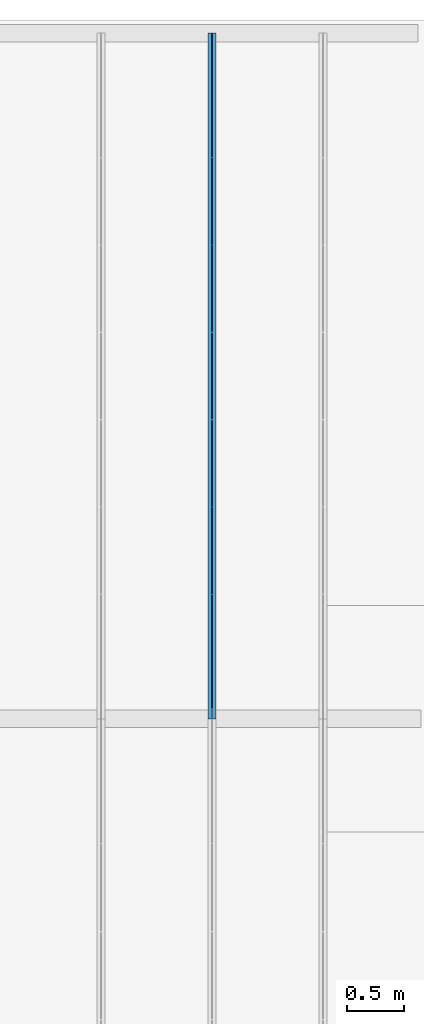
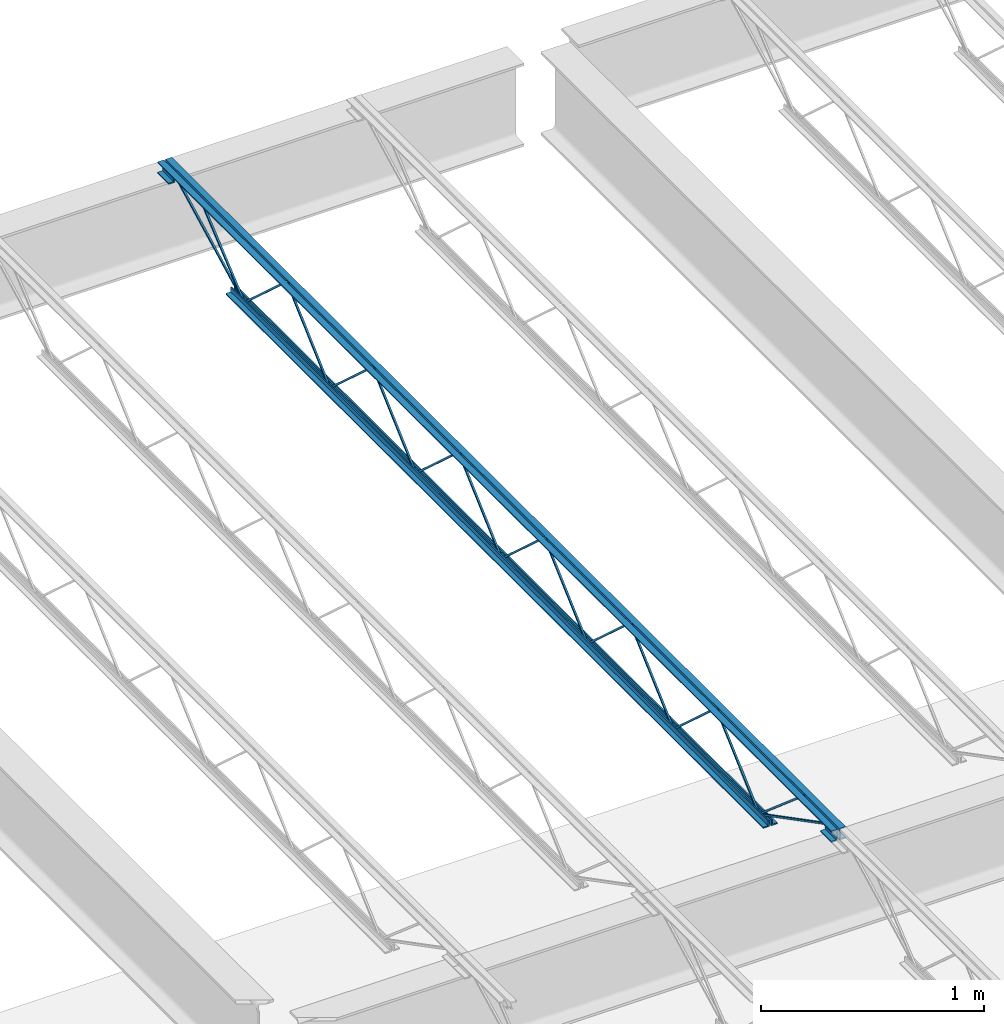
# One storey, part 38 of 75: 1 beam.
"""IFC2X3 building model written with IfcOpenShell, lengths in metres."""

import ifcopenshell
import ifcopenshell.guid

model = None  # the IFC model being written
_history = None  # IfcOwnerHistory: only IFC2X3 demands one
_inside = {}  # id of a spatial element -> (the spatial element, [elements in it])
_under = {}  # id of a project, library or spatial element -> (it, [spatial elements below it])
_declared = {}  # id of a project -> (the project, [libraries it declares])
_typed = {}  # id of a type object -> (the type object, [elements of that type])
_made_of = {}  # id of a material, layer set ... -> (it, [elements and type objects made of it])


def new_model(schema):
    """Start an empty IFC model of exactly this schema.

    Asked for "IFC4X3", IfcOpenShell would pick the latest addendum, in which some entities
    have other attributes; the version numbers below select the first issue.
    IFC2X3 requires an IfcOwnerHistory on every rooted entity: one is made here for all.
    """
    global model, _history
    if schema == "IFC4X3":
        model = ifcopenshell.file(schema_version=(4, 3, 0, 0))
    else:
        model = ifcopenshell.file(schema=schema)
    _inside.clear()
    _under.clear()
    _declared.clear()
    _typed.clear()
    _made_of.clear()
    _history = None
    if model.schema == "IFC2X3":
        org = make("IfcOrganization", Name="unknown")
        user = make(
            "IfcPersonAndOrganization",
            ThePerson=make("IfcPerson", FamilyName="unknown"),
            TheOrganization=org,
        )
        app = make(
            "IfcApplication",
            ApplicationDeveloper=org,
            Version="unknown",
            ApplicationFullName="unknown",
            ApplicationIdentifier="unknown",
        )
        _history = make(
            "IfcOwnerHistory",
            OwningUser=user,
            OwningApplication=app,
            ChangeAction="ADDED",
            CreationDate=0,
        )
    return model


def make(cls, **values):
    """One entity of the class cls with the attributes given. An attribute that is None is left unset."""
    return model.create_entity(
        cls, **{name: value for name, value in values.items() if value is not None}
    )


def entity(cls, *values):
    """Any entity or typed value of the class cls, its attributes in the order of the schema. None: left unset."""
    e = model.create_entity(cls)
    for i, value in enumerate(values):
        if value is not None:
            e[i] = value
    return e


def rooted(cls, **values):
    """An entity with a GlobalId (a new one), such as an element, a storey or a relation."""
    return make(cls, GlobalId=ifcopenshell.guid.new(), OwnerHistory=_history, **values)


def si_unit(unit_type, name, prefix=None):
    """IfcSIUnit, for example si_unit("LENGTHUNIT", "METRE", prefix="MILLI")."""
    return make("IfcSIUnit", UnitType=unit_type, Prefix=prefix, Name=name)


def converted_unit(unit_type, name, factor, base, dimensions=None, offset=None):
    """IfcConversionBasedUnit, such as the inch: factor (a typed value) times the base unit."""
    return make(
        "IfcConversionBasedUnit"
        if offset is None
        else "IfcConversionBasedUnitWithOffset",
        ConversionOffset=offset,
        Dimensions=None
        if dimensions is None
        else entity("IfcDimensionalExponents", *dimensions),
        UnitType=unit_type,
        Name=name,
        ConversionFactor=make(
            "IfcMeasureWithUnit", ValueComponent=factor, UnitComponent=base
        ),
    )


def assignment(units):
    """IfcUnitAssignment: the units of a project."""
    return None if units is None else make("IfcUnitAssignment", Units=units)


def point(xyz):
    """IfcCartesianPoint."""
    return None if xyz is None else make("IfcCartesianPoint", Coordinates=xyz)


def direction(xyz):
    """IfcDirection."""
    return None if xyz is None else make("IfcDirection", DirectionRatios=xyz)


def frame(location, z_axis=None, x_axis=None):
    """IfcAxis2Placement3D, a coordinate frame: its origin and axes. An axis left out is left unset."""
    return make(
        "IfcAxis2Placement3D",
        Location=point(location),
        Axis=direction(z_axis),
        RefDirection=direction(x_axis),
    )


def origin():
    """The frame at (0, 0, 0) with its axes left unset."""
    return frame((0.0, 0.0, 0.0))


def place(relative_to, where):
    """IfcLocalPlacement: puts the frame where relative to a parent placement (None: the world)."""
    return make(
        "IfcLocalPlacement", PlacementRelTo=relative_to, RelativePlacement=where
    )


def context(
    kind, dimensions, precision=None, world=None, true_north=None, identifier=None
):
    """IfcGeometricRepresentationContext, for example the 3D "Model" context."""
    return make(
        "IfcGeometricRepresentationContext",
        ContextIdentifier=identifier,
        ContextType=kind,
        CoordinateSpaceDimension=dimensions,
        Precision=precision,
        WorldCoordinateSystem=world,
        TrueNorth=true_north,
    )


def project(units=None, contexts=None):
    """IfcProject with its units and contexts."""
    return rooted(
        "IfcProject",
        Name="project",
        RepresentationContexts=contexts,
        UnitsInContext=assignment(units),
    )


def spatial(cls, under=None, at=None, **own):
    """A site, building, storey or space (cls), placed at a placement, below another one or the project."""
    s = rooted(cls, ObjectPlacement=at, **own)
    if under is not None:
        _under.setdefault(under.id(), (under, []))[1].append(s)
    return s


def faces_of(points, faces, orient=None, outer=None):
    """IfcFace entities. A face is a list of loops; a loop is a list of indices into points, from 0.

    orient and outer hold one flag for each loop. By default every Orientation is true, the
    first loop of a face is its IfcFaceOuterBound and the others are IfcFaceBound.
    """
    made = []
    for i, loops in enumerate(faces):
        bounds = []
        for j, loop in enumerate(loops):
            is_outer = j == 0 if outer is None else outer[i][j]
            bounds.append(
                make(
                    "IfcFaceOuterBound" if is_outer else "IfcFaceBound",
                    Bound=make("IfcPolyLoop", Polygon=[points[k] for k in loop]),
                    Orientation=True if orient is None else orient[i][j],
                )
            )
        made.append(make("IfcFace", Bounds=bounds))
    return made


def face_set(faces, orient=None, outer=None):
    """The faces of one IfcConnectedFaceSet. surface_model builds it on its shared points."""
    return ("IfcConnectedFaceSet", faces, orient, outer)


def surface_model(cls, points, shells):
    """IfcFaceBasedSurfaceModel or IfcShellBasedSurfaceModel (cls): surfaces that need not close."""
    shared = [point(p) for p in points]
    made = [make(c, CfsFaces=faces_of(shared, fs, o, b)) for c, fs, o, b in shells]
    if cls == "IfcFaceBasedSurfaceModel":
        return make(cls, FbsmFaces=made)
    return make(cls, SbsmBoundary=made)


def shape(context_of_items, identifier, shape_type, items):
    """IfcShapeRepresentation: the items that make up one representation, for example the "Body"."""
    return make(
        "IfcShapeRepresentation",
        ContextOfItems=context_of_items,
        RepresentationIdentifier=identifier,
        RepresentationType=shape_type,
        Items=items,
    )


def made_of(thing, what):
    """Note that an element or type object is made of a material, layer set ...; save() writes the relation."""
    if what is not None:
        _made_of.setdefault(what.id(), (what, []))[1].append(thing)
    return thing


def element(
    cls,
    number,
    at=None,
    inside=None,
    cuts=None,
    type_object=None,
    material=None,
    context=None,
    identifier="Body",
    shape_type=None,
    held_by="IfcProductDefinitionShape",
    body=None,
    shapes=None,
    **own,
):
    """One element of the class cls, such as IfcWall. Its Tag is "e" and its number.

    at: its placement. inside: the storey or other place that contains it. cuts: it is an
    opening in that element (IfcRelVoidsElement). A single representation is given by context,
    identifier, shape_type and body (its items); several are given by shapes. held_by: the class
    of the entity that holds the representations. save() writes the other relations.
    """
    e = rooted(cls, Tag="e%d" % number, ObjectPlacement=at, **own)
    if body is not None:
        shapes = [shape(context, identifier, shape_type, body)]
    if shapes is not None:
        e.Representation = make(held_by, Representations=shapes)
    if inside is not None:
        _inside.setdefault(inside.id(), (inside, []))[1].append(e)
    if cuts is not None:
        rooted(
            "IfcRelVoidsElement", RelatingBuildingElement=cuts, RelatedOpeningElement=e
        )
    if type_object is not None:
        _typed.setdefault(type_object.id(), (type_object, []))[1].append(e)
    return made_of(e, material)


def aggregate(whole, parts):
    """IfcRelAggregates: a whole, such as a stair, and the parts it consists of."""
    return rooted("IfcRelAggregates", RelatingObject=whole, RelatedObjects=parts)


def save(model, path):
    """Write the relations noted so far, then the file.

    IfcRelAggregates (storeys below a building ...), IfcRelContainedInSpatialStructure (elements
    in a storey), IfcRelDefinesByType, IfcRelAssociatesMaterial and IfcRelDeclares: one each for
    every whole, place, type object, material and project.
    """
    for whole, parts in _under.values():
        aggregate(whole, parts)
    for where, things in _inside.values():
        rooted(
            "IfcRelContainedInSpatialStructure",
            RelatedElements=things,
            RelatingStructure=where,
        )
    for kind, things in _typed.values():
        rooted("IfcRelDefinesByType", RelatedObjects=things, RelatingType=kind)
    for what, things in _made_of.values():
        rooted("IfcRelAssociatesMaterial", RelatedObjects=things, RelatingMaterial=what)
    for by, libraries in _declared.values():
        rooted("IfcRelDeclares", RelatingContext=by, RelatedDefinitions=libraries)
    model.write(path)


model = new_model("IFC2X3")

# Units and contexts
model_context = context("Model", 3, precision=1e-09, world=origin())
plan_context = context("Plan", 3, precision=1e-09, world=origin())
ifc_project = project(units=[si_unit("LENGTHUNIT", "METRE"), si_unit("AREAUNIT", "SQUARE_METRE"), si_unit("VOLUMEUNIT", "CUBIC_METRE"), converted_unit("PLANEANGLEUNIT", "DEGREE", entity("IfcRatioMeasure", 0.01745329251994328), si_unit("PLANEANGLEUNIT", "RADIAN"), dimensions=[0, 0, 0, 0, 0, 0, 0]), si_unit("TIMEUNIT", "SECOND")], contexts=[model_context, plan_context])

# Site, building, storey
site_placement = place(None, origin())
site = spatial("IfcSite", under=ifc_project, at=site_placement, Name="Default", CompositionType="ELEMENT")
building_placement = place(site_placement, origin())
building = spatial("IfcBuilding", under=site, at=building_placement, CompositionType="ELEMENT")
storey_placement = place(building_placement, origin())
storey = spatial("IfcBuildingStorey", under=building, at=storey_placement, Name="First Floor", CompositionType="ELEMENT", Elevation=-3.531500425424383e-13)

# Beam
beam_placement = place(storey_placement, frame((-48.99674999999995, 50.09000000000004, 4.112000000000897), z_axis=(0.0, 0.0, 1.0), x_axis=(-1.0, 0.0, 0.0)))
element("IfcBeam", 1, at=beam_placement, inside=storey, Name="M_K-Series Bar Joist-Rod Web:14K1:14K1", ObjectType="M_K-Series Bar Joist-Rod Web:14K1", context=model_context, shape_type="SurfaceModel", body=[
    surface_model("IfcFaceBasedSurfaceModel", [(-0.03200000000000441, -2.254000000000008, 0.01110000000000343), (-0.0415000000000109, -2.254000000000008, 0.01110000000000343), (-0.0415000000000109, -2.254000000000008, 0.001600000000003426), (-0.03200000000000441, -2.254000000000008, 0.001600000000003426), (-0.04150000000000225, -2.252655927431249, 0.01110000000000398), (-0.03200000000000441, -2.252655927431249, 0.01110000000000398), (-0.04150000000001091, -2.248994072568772, 0.001600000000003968), (-0.04150000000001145, -1.869844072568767, 0.3449000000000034), (-0.04150000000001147, -1.86715592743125, 0.3449000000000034), (-0.04150000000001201, -1.48800592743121, 0.001600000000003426), (-0.04150000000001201, -1.483000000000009, 0.001600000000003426), (-0.04150000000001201, -1.483000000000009, 0.01110000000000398), (-0.04150000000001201, -1.484344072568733, 0.01110000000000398), (-0.04150000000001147, -1.863494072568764, 0.3544000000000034), (-0.04150000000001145, -1.873505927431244, 0.3544000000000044), (-0.03200000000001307, -2.248994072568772, 0.001600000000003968), (-0.03200000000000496, -1.869844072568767, 0.3449000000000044), (-0.03200000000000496, -1.86715592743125, 0.3449000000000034), (-0.0320000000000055, -1.48800592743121, 0.001600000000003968), (-0.03200000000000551, -1.483000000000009, 0.001600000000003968), (-0.03200000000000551, -1.483000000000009, 0.01110000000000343), (-0.0320000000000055, -1.484344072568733, 0.01110000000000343), (-0.03200000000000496, -1.863494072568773, 0.3544000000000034), (-0.03200000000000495, -1.873505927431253, 0.3544000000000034), (-0.0320000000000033, -3.025000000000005, 0.01110000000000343), (-0.04150000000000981, -3.025000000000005, 0.01110000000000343), (-0.04150000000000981, -3.025000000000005, 0.001600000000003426), (-0.0320000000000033, -3.025000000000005, 0.001600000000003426), (-0.04150000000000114, -3.023655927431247, 0.01110000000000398), (-0.0320000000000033, -3.023655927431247, 0.01110000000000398), (-0.04150000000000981, -3.01999407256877, 0.001600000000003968), (-0.04150000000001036, -2.640844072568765, 0.3449000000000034), (-0.04150000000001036, -2.638155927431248, 0.3449000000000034), (-0.0415000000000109, -2.259005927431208, 0.001600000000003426), (-0.0415000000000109, -2.254000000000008, 0.01110000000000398), (-0.0415000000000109, -2.255344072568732, 0.01110000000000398), (-0.04150000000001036, -2.634494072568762, 0.3544000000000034), (-0.04150000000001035, -2.644505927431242, 0.3544000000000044), (-0.03200000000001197, -3.01999407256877, 0.001600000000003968), (-0.03200000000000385, -2.640844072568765, 0.3449000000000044), (-0.03200000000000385, -2.638155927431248, 0.3449000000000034), (-0.03200000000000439, -2.259005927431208, 0.001600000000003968), (-0.03200000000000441, -2.254000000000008, 0.001600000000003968), (-0.0320000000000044, -2.255344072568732, 0.01110000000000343), (-0.03200000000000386, -2.634494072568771, 0.3544000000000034), (-0.03200000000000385, -2.644505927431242, 0.3544000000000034), (-0.03200000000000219, -3.796000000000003, 0.01110000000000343), (-0.0415000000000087, -3.796000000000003, 0.01110000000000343), (-0.0415000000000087, -3.796000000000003, 0.001600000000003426), (-0.03200000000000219, -3.796000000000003, 0.001600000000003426), (-0.04150000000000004, -3.794655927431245, 0.01110000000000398), (-0.03200000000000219, -3.794655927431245, 0.01110000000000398), (-0.0415000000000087, -3.790994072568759, 0.001600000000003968), (-0.04150000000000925, -3.411844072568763, 0.3449000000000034), (-0.04150000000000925, -3.409155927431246, 0.3449000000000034), (-0.04150000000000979, -3.030005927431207, 0.001600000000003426), (-0.04150000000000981, -3.025000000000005, 0.01110000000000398), (-0.04150000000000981, -3.026344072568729, 0.01110000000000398), (-0.04150000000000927, -3.40549407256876, 0.3544000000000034), (-0.04150000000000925, -3.41550592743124, 0.3544000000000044), (-0.03200000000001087, -3.790994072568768, 0.001600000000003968), (-0.03200000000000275, -3.411844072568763, 0.3449000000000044), (-0.03200000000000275, -3.409155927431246, 0.3449000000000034), (-0.03200000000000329, -3.030005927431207, 0.001600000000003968), (-0.0320000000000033, -3.025000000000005, 0.001600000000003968), (-0.0320000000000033, -3.026344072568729, 0.01110000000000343), (-0.03200000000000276, -3.40549407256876, 0.3544000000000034), (-0.03200000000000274, -3.41550592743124, 0.3544000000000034), (-0.03200000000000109, -4.567000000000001, 0.01110000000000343), (-0.04150000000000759, -4.567000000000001, 0.01110000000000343), (-0.04150000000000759, -4.567000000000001, 0.001600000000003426), (-0.03200000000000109, -4.567000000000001, 0.001600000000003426), (-0.04149999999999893, -4.565655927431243, 0.01110000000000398), (-0.03200000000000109, -4.565655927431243, 0.01110000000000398), (-0.04150000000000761, -4.561994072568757, 0.001600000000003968), (-0.04150000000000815, -4.182844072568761, 0.3449000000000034), (-0.04150000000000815, -4.180155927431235, 0.3449000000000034), (-0.0415000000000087, -3.801005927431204, 0.001600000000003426), (-0.0415000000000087, -3.795999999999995, 0.001600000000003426), (-0.0415000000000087, -3.796000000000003, 0.01110000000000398), (-0.0415000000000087, -3.797344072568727, 0.01110000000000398), (-0.04150000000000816, -4.176494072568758, 0.3544000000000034), (-0.04150000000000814, -4.186505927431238, 0.3544000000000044), (-0.03200000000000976, -4.561994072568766, 0.001600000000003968), (-0.03200000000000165, -4.182844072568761, 0.3449000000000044), (-0.03200000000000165, -4.180155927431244, 0.3449000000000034), (-0.03200000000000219, -3.801005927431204, 0.001600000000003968), (-0.03200000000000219, -3.796000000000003, 0.001600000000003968), (-0.03200000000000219, -3.795999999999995, 0.01110000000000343), (-0.03200000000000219, -3.797344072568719, 0.01110000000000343), (-0.03200000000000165, -4.176494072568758, 0.3544000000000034), (-0.03200000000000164, -4.186505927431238, 0.3544000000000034), (-0.03200000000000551, -1.483000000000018, 0.01109999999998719), (-0.04150000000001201, -1.483000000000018, 0.01109999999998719), (-0.04150000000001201, -1.483000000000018, 0.001599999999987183), (-0.03200000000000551, -1.483000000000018, 0.001599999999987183), (-0.04150000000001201, -1.48165592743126, 0.01109999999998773), (-0.03200000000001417, -1.48165592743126, 0.01109999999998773), (-0.04150000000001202, -1.477994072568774, 0.001599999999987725), (-0.04150000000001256, -1.098844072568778, 0.3448999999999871), (-0.04150000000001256, -1.096155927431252, 0.3448999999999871), (-0.04150000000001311, -0.717005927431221, 0.001599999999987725), (-0.04150000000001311, -0.7120000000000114, 0.001599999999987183), (-0.04150000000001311, -0.7120000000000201, 0.01109999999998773), (-0.04150000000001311, -0.713344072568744, 0.01109999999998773), (-0.04150000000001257, -1.092494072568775, 0.3543999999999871), (-0.04150000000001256, -1.102505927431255, 0.3543999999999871), (-0.03200000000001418, -1.477994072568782, 0.001599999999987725), (-0.03200000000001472, -1.098844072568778, 0.3448999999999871), (-0.03200000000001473, -1.09615592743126, 0.3448999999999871), (-0.03200000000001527, -0.717005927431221, 0.001599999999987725), (-0.03200000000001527, -0.7120000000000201, 0.001599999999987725), (-0.03200000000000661, -0.7120000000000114, 0.01109999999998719), (-0.03200000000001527, -0.7133440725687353, 0.01109999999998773), (-0.03200000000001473, -1.092494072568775, 0.3543999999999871), (-0.03200000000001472, -1.102505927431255, 0.3543999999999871), (-0.03199999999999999, -5.33799999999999, 0.01110000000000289), (-0.04150000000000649, -5.33799999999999, 0.01110000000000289), (-0.04150000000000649, -5.33799999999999, 0.001600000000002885), (-0.03199999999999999, -5.33799999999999, 0.001600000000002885), (-0.04149999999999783, -5.336655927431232, 0.01110000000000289), (-0.03199999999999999, -5.336655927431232, 0.01110000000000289), (-0.0415000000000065, -5.332994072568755, 0.001600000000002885), (-0.04150000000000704, -4.95384407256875, 0.3449000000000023), (-0.04150000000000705, -4.951155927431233, 0.3449000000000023), (-0.04150000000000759, -4.572005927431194, 0.001600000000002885), (-0.04150000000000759, -4.566999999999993, 0.001600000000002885), (-0.04150000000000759, -4.566999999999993, 0.01110000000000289), (-0.04150000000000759, -4.568344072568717, 0.01110000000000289), (-0.04150000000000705, -4.947494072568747, 0.3544000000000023), (-0.04150000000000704, -4.957505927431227, 0.3544000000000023), (-0.03200000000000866, -5.332994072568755, 0.001600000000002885), (-0.03200000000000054, -4.95384407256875, 0.3449000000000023), (-0.03200000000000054, -4.951155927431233, 0.3449000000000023), (-0.03200000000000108, -4.572005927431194, 0.001600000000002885), (-0.03200000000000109, -4.566999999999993, 0.001600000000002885), (-0.03200000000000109, -4.566999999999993, 0.01110000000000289), (-0.03200000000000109, -4.568344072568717, 0.01110000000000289), (-0.03200000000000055, -4.947494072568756, 0.3544000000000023), (-0.03200000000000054, -4.957505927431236, 0.3544000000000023), (-0.04150000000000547, 0.0, 0.3559999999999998), (-0.07350000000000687, 0.0, 0.3559999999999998), (-0.07350000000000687, 0.0, 0.349499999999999), (-0.048000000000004, 0.0, 0.349499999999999), (-0.048000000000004, 0.0, 0.3239999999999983), (-0.04150000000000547, 0.0, 0.3239999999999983), (-0.03200000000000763, 0.0, 0.3559999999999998), (-0.03200000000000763, 0.0, 0.3239999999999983), (-0.02550000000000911, 0.0, 0.3239999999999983), (-0.02550000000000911, 0.0, 0.349499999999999), (0.0, 0.0, 0.349499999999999), (0.0, 0.0, 0.3559999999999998), (-0.04150000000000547, -6.049999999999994, 0.3559999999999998), (-0.07350000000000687, -6.049999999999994, 0.3559999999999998), (-0.07350000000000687, -6.049999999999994, 0.349499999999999), (-0.048000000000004, -6.049999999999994, 0.349499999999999), (-0.048000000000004, -6.049999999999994, 0.3239999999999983), (-0.04150000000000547, -6.049999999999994, 0.3239999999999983), (-0.03200000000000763, -6.049999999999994, 0.3559999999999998), (-0.03200000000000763, -6.049999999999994, 0.3239999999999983), (-0.02550000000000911, -6.049999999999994, 0.3239999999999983), (-0.02550000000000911, -6.049999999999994, 0.349499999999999), (0.0, -6.049999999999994, 0.349499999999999), (0.0, -6.049999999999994, 0.3559999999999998), (-0.03199999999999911, -5.950000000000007, 0.2924999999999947), (0.0, -5.950000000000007, 0.2924999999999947), (0.0, -5.950000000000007, 0.2989999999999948), (-0.02550000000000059, -5.950000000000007, 0.2989999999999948), (-0.02550000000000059, -5.950000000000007, 0.3239999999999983), (-0.03199999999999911, -5.950000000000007, 0.3239999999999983), (-0.07349999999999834, -5.950000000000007, 0.2924999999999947), (-0.04149999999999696, -5.950000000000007, 0.2924999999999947), (-0.04149999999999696, -5.950000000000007, 0.3239999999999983), (-0.04799999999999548, -5.950000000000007, 0.3239999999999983), (-0.04799999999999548, -5.950000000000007, 0.2989999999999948), (-0.07349999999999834, -5.950000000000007, 0.2989999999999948), (-0.03199999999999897, -6.049999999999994, 0.2924999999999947), (0.0, -6.049999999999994, 0.2924999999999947), (0.0, -6.049999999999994, 0.2989999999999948), (-0.02550000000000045, -6.049999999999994, 0.2989999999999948), (-0.02550000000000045, -6.049999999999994, 0.3239999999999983), (-0.03199999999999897, -6.049999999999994, 0.3239999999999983), (-0.07349999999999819, -6.049999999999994, 0.2924999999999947), (-0.04149999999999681, -6.049999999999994, 0.2924999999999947), (-0.04149999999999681, -6.049999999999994, 0.3239999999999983), (-0.04799999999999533, -6.049999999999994, 0.3239999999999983), (-0.04799999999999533, -6.049999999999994, 0.2989999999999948), (-0.07349999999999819, -6.049999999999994, 0.2989999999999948), (-0.04149999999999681, 0.0, 0.2924999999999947), (-0.04149999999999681, 0.0, 0.3239999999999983), (-0.04799999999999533, 0.0, 0.3239999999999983), (-0.04799999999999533, 0.0, 0.2989999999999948), (-0.07349999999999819, 0.0, 0.2989999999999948), (-0.07349999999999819, 0.0, 0.2924999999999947), (-0.03199999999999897, 0.0, 0.2924999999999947), (0.0, 0.0, 0.2924999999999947), (0.0, 0.0, 0.2989999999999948), (-0.02550000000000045, 0.0, 0.2989999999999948), (-0.02550000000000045, 0.0, 0.3239999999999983), (-0.03199999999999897, 0.0, 0.3239999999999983), (-0.04150000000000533, -0.0999999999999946, 0.2924999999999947), (-0.04150000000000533, -0.0999999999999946, 0.3239999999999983), (-0.04800000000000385, -0.0999999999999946, 0.3239999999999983), (-0.04800000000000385, -0.0999999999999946, 0.2989999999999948), (-0.07350000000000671, -0.0999999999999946, 0.2989999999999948), (-0.07350000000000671, -0.0999999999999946, 0.2924999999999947), (-0.03200000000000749, -0.0999999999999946, 0.2924999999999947), (0.0, -0.0999999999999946, 0.2924999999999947), (0.0, -0.0999999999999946, 0.2989999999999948), (-0.02550000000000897, -0.0999999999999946, 0.2989999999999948), (-0.02550000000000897, -0.0999999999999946, 0.3239999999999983), (-0.03200000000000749, -0.0999999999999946, 0.3239999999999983), (-0.04150000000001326, -0.6119999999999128, 0.0), (-0.04150000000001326, -0.6119999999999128, 0.03199999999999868), (-0.04800000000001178, -0.6119999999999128, 0.03199999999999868), (-0.04800000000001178, -0.6119999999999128, 0.006499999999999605), (-0.07350000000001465, -0.6119999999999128, 0.006499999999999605), (-0.07350000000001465, -0.6119999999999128, 0.0), (-0.03200000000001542, -0.6119999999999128, 0.0), (0.0, -0.6119999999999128, 0.0), (0.0, -0.6119999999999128, 0.006499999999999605), (-0.0255000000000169, -0.6119999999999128, 0.006499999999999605), (-0.0255000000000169, -0.6119999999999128, 0.03199999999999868), (-0.03200000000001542, -0.6119999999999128, 0.03199999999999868), (-0.04150000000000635, -5.437999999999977, 0.0), (-0.04150000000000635, -5.437999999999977, 0.03199999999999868), (-0.04800000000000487, -5.437999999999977, 0.03199999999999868), (-0.04800000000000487, -5.437999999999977, 0.006499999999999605), (-0.07350000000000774, -5.437999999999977, 0.006499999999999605), (-0.07350000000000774, -5.437999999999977, 0.0), (-0.03200000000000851, -5.437999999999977, 0.0), (0.0, -5.437999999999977, 0.0), (0.0, -5.437999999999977, 0.006499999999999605), (-0.02550000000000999, -5.437999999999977, 0.006499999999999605), (-0.02550000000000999, -5.437999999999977, 0.03199999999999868), (-0.03200000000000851, -5.437999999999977, 0.03199999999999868), (-0.03199999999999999, -5.335811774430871, 0.01056594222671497), (-0.0415000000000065, -5.335811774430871, 0.01056594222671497), (-0.04150000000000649, -5.34018822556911, 0.002134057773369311), (-0.03199999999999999, -5.34018822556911, 0.002134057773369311), (-0.03199999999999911, -5.948840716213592, 0.3287499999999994), (-0.03199999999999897, -6.049999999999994, 0.3287499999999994), (-0.03199999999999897, -6.049999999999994, 0.3192499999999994), (-0.03199999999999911, -5.951159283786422, 0.3192499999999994), (-0.04149999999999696, -5.951159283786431, 0.3192499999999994), (-0.04150000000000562, -5.948840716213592, 0.3287499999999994), (-0.04150000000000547, -6.049999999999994, 0.3287499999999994), (-0.04150000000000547, -6.049999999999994, 0.3192499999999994), (-0.03199999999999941, -5.743457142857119, 0.341700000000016), (-0.04150000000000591, -5.743457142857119, 0.341700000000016), (-0.04150000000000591, -5.743457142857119, 0.332200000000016), (-0.03199999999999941, -5.743457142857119, 0.332200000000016), (-0.04149999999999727, -5.729024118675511, 0.341700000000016), (-0.03199999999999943, -5.729024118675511, 0.341700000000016), (-0.04150000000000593, -5.732490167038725, 0.332200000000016), (-0.04150000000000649, -5.341058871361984, 0.002716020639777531), (-0.0415000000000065, -5.334941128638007, 0.009983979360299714), (-0.03200000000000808, -5.732490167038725, 0.332200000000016), (-0.03199999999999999, -5.341058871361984, 0.002716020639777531), (-0.03199999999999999, -5.334941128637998, 0.009983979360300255), (-0.0320000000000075, -0.09781177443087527, 0.3197840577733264), (-0.03200000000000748, -0.1021882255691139, 0.3282159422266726), (-0.04150000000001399, -0.1021882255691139, 0.3282159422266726), (-0.04150000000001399, -0.09781177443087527, 0.3197840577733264), (-0.03200000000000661, -0.7098117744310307, 0.002134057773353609), (-0.03200000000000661, -0.7141882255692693, 0.01056594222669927), (-0.04150000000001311, -0.7141882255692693, 0.01056594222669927), (-0.04150000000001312, -0.7098117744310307, 0.002134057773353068), (-0.03200000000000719, -0.3088922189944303, 0.3460454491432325), (-0.03200000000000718, -0.3150792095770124, 0.3532545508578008), (-0.04150000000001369, -0.3150792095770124, 0.3532545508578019), (-0.04150000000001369, -0.3088922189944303, 0.3460454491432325), (-0.03200000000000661, -0.7089065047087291, 0.002745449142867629), (-0.03200000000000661, -0.715093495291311, 0.009954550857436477), (-0.04150000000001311, -0.715093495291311, 0.009954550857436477), (-0.04150000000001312, -0.7089065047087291, 0.002745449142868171)], [face_set([[[0, 1, 2, 3]], [[1, 4, 5, 0]], [[2, 6, 7, 8, 9, 10, 11, 12, 13, 14, 4, 1]], [[3, 2, 6, 15]], [[0, 3, 15, 16, 17, 18, 19, 20, 21, 22, 23, 5]], [[4, 5, 23, 14]], [[15, 16, 7, 6]], [[14, 13, 22, 23]], [[16, 7, 8, 17]], [[13, 12, 21, 22]], [[17, 8, 9, 18]], [[20, 11, 10, 19]], [[12, 11, 20, 21]], [[18, 9, 10, 19]]]), face_set([[[24, 25, 26, 27]], [[25, 28, 29, 24]], [[26, 30, 31, 32, 33, 2, 34, 35, 36, 37, 28, 25]], [[27, 26, 30, 38]], [[24, 27, 38, 39, 40, 41, 42, 0, 43, 44, 45, 29]], [[28, 29, 45, 37]], [[38, 39, 31, 30]], [[37, 36, 44, 45]], [[39, 31, 32, 40]], [[36, 35, 43, 44]], [[40, 32, 33, 41]], [[0, 34, 2, 42]], [[35, 34, 0, 43]], [[41, 33, 2, 42]]]), face_set([[[46, 47, 48, 49]], [[47, 50, 51, 46]], [[48, 52, 53, 54, 55, 26, 56, 57, 58, 59, 50, 47]], [[49, 48, 52, 60]], [[46, 49, 60, 61, 62, 63, 64, 24, 65, 66, 67, 51]], [[50, 51, 67, 59]], [[60, 61, 53, 52]], [[59, 58, 66, 67]], [[61, 53, 54, 62]], [[58, 57, 65, 66]], [[62, 54, 55, 63]], [[24, 56, 26, 64]], [[57, 56, 24, 65]], [[63, 55, 26, 64]]]), face_set([[[68, 69, 70, 71]], [[69, 72, 73, 68]], [[70, 74, 75, 76, 77, 78, 79, 80, 81, 82, 72, 69]], [[71, 70, 74, 83]], [[68, 71, 83, 84, 85, 86, 87, 88, 89, 90, 91, 73]], [[72, 73, 91, 82]], [[83, 84, 75, 74]], [[82, 81, 90, 91]], [[84, 75, 76, 85]], [[81, 80, 89, 90]], [[85, 76, 77, 86]], [[88, 79, 78, 87]], [[80, 79, 88, 89]], [[86, 77, 78, 87]]]), face_set([[[92, 93, 94, 95]], [[93, 96, 97, 92]], [[94, 98, 99, 100, 101, 102, 103, 104, 105, 106, 96, 93]], [[95, 94, 98, 107]], [[92, 95, 107, 108, 109, 110, 111, 112, 113, 114, 115, 97]], [[96, 97, 115, 106]], [[107, 108, 99, 98]], [[106, 105, 114, 115]], [[108, 99, 100, 109]], [[105, 104, 113, 114]], [[109, 100, 101, 110]], [[112, 103, 102, 111]], [[104, 103, 112, 113]], [[110, 101, 102, 111]]]), face_set([[[116, 117, 118, 119]], [[117, 120, 121, 116]], [[118, 122, 123, 124, 125, 126, 127, 128, 129, 130, 120, 117]], [[119, 118, 122, 131]], [[116, 119, 131, 132, 133, 134, 135, 136, 137, 138, 139, 121]], [[120, 121, 139, 130]], [[131, 132, 123, 122]], [[130, 129, 138, 139]], [[132, 123, 124, 133]], [[129, 128, 137, 138]], [[133, 124, 125, 134]], [[136, 127, 126, 135]], [[128, 127, 136, 137]], [[134, 125, 126, 135]]]), face_set([[[140, 141, 142, 143, 144, 145]], [[146, 147, 148, 149, 150, 151]], [[152, 153, 154, 155, 156, 157]], [[158, 159, 160, 161, 162, 163]], [[145, 140, 152, 157]], [[144, 145, 157, 156]], [[143, 155, 156, 144]], [[142, 143, 155, 154]], [[141, 153, 154, 142]], [[140, 152, 153, 141]], [[151, 163, 158, 146]], [[150, 151, 163, 162]], [[149, 150, 162, 161]], [[148, 149, 161, 160]], [[147, 148, 160, 159]], [[146, 158, 159, 147]]]), face_set([[[164, 165, 166, 167, 168, 169]], [[170, 171, 172, 173, 174, 175]], [[176, 177, 178, 179, 180, 181]], [[182, 183, 184, 185, 186, 187]], [[169, 181, 176, 164]], [[168, 180, 181, 169]], [[167, 168, 180, 179]], [[166, 178, 179, 167]], [[165, 166, 178, 177]], [[164, 165, 177, 176]], [[175, 187, 182, 170]], [[174, 186, 187, 175]], [[173, 185, 186, 174]], [[172, 184, 185, 173]], [[171, 172, 184, 183]], [[170, 171, 183, 182]]]), face_set([[[188, 189, 190, 191, 192, 193]], [[194, 195, 196, 197, 198, 199]], [[200, 201, 202, 203, 204, 205]], [[206, 207, 208, 209, 210, 211]], [[193, 188, 200, 205]], [[192, 204, 205, 193]], [[191, 203, 204, 192]], [[190, 202, 203, 191]], [[189, 201, 202, 190]], [[188, 189, 201, 200]], [[199, 211, 206, 194]], [[198, 210, 211, 199]], [[197, 198, 210, 209]], [[196, 208, 209, 197]], [[195, 196, 208, 207]], [[194, 195, 207, 206]]]), face_set([[[212, 213, 214, 215, 216, 217]], [[218, 219, 220, 221, 222, 223]], [[224, 225, 226, 227, 228, 229]], [[230, 231, 232, 233, 234, 235]], [[217, 212, 224, 229]], [[216, 228, 229, 217]], [[215, 227, 228, 216]], [[214, 226, 227, 215]], [[213, 225, 226, 214]], [[212, 213, 225, 224]], [[223, 235, 230, 218]], [[222, 234, 235, 223]], [[221, 222, 234, 233]], [[220, 232, 233, 221]], [[219, 220, 232, 231]], [[218, 219, 231, 230]]]), face_set([[[236, 237, 238, 239]], [[239, 236, 240, 241, 242, 243]], [[238, 239, 243, 244]], [[237, 245, 246, 247, 244, 238]], [[236, 240, 245, 237]], [[241, 246, 247, 242]], [[244, 243, 242, 247]], [[240, 241, 246, 245]]]), face_set([[[248, 249, 250, 251]], [[249, 252, 253, 248]], [[250, 254, 255, 256, 252, 249]], [[251, 250, 254, 257]], [[248, 251, 257, 258, 259, 253]], [[259, 256, 255, 258]], [[252, 256, 259, 253]], [[257, 254, 255, 258]]]), face_set([[[260, 261, 262, 263]], [[264, 265, 266, 267]], [[263, 267, 264, 260]], [[262, 266, 267, 263]], [[261, 262, 266, 265]], [[260, 261, 265, 264]]]), face_set([[[268, 269, 270, 271]], [[272, 273, 274, 275]], [[271, 275, 272, 268]], [[270, 274, 275, 271]], [[269, 270, 274, 273]], [[268, 269, 273, 272]]])]),
])

save(model, "model.ifc")
